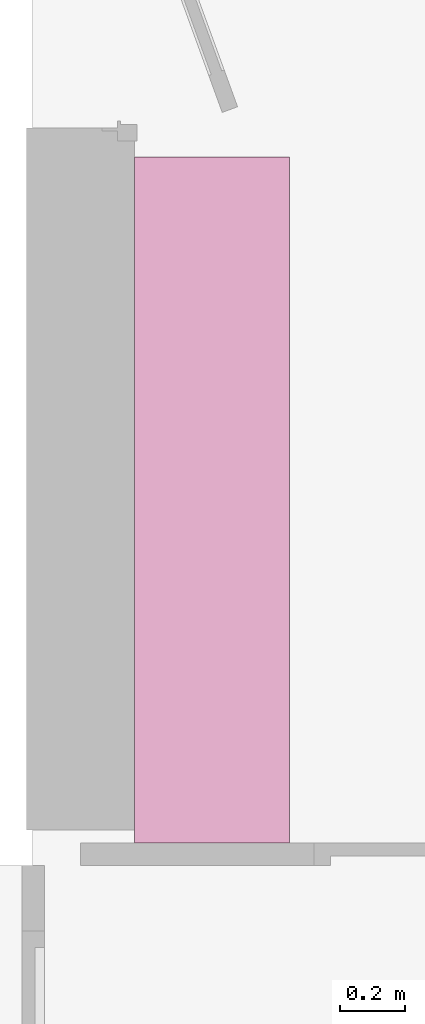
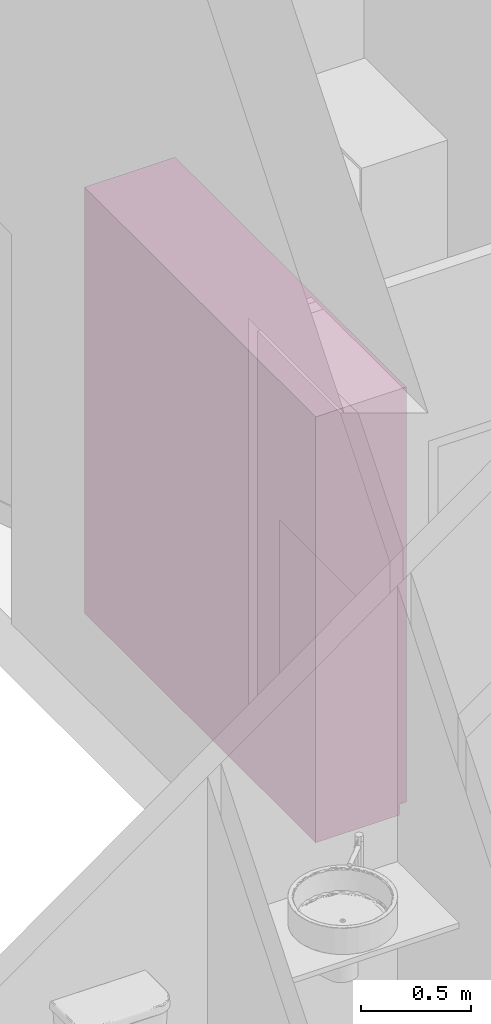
# One storey, part 33 of 40: 1 furnishing.
"""IFC2X3 building model written with IfcOpenShell, lengths in metres."""

from ifc_helpers import new_model, entity, si_unit, converted_unit, derived_unit, direction, frame, origin, place, context, subcontext, project, spatial, faceted_brep, source, transform, mapped, material, material_list, type_object, type_shapes, element, save


model = new_model("IFC2X3")

# Units and contexts
model_context = context("Model", 3, precision=1e-05, world=origin(), true_north=direction((6.12303176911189e-17, 1.0)))
body_context = subcontext(model_context, "Body", "Model", "MODEL_VIEW")
ifc_project = project(units=[si_unit("LENGTHUNIT", "METRE"), si_unit("AREAUNIT", "SQUARE_METRE"), si_unit("VOLUMEUNIT", "CUBIC_METRE"), converted_unit("PLANEANGLEUNIT", "DEGREE", entity("IfcRatioMeasure", 0.0174532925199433), si_unit("PLANEANGLEUNIT", "RADIAN"), dimensions=[0, 0, 0, 0, 0, 0, 0]), si_unit("MASSUNIT", "GRAM", prefix="KILO"), derived_unit("MASSDENSITYUNIT", [(si_unit("MASSUNIT", "GRAM", prefix="KILO"), 1), (si_unit("LENGTHUNIT", "METRE"), -3)]), si_unit("TIMEUNIT", "SECOND"), si_unit("FREQUENCYUNIT", "HERTZ"), si_unit("THERMODYNAMICTEMPERATUREUNIT", "DEGREE_CELSIUS"), derived_unit("THERMALTRANSMITTANCEUNIT", [(si_unit("MASSUNIT", "GRAM", prefix="KILO"), 1), (si_unit("THERMODYNAMICTEMPERATUREUNIT", "KELVIN"), -1), (si_unit("TIMEUNIT", "SECOND"), -3)]), derived_unit("VOLUMETRICFLOWRATEUNIT", [(si_unit("LENGTHUNIT", "METRE"), 3), (si_unit("TIMEUNIT", "SECOND"), -1)]), si_unit("ELECTRICCURRENTUNIT", "AMPERE"), si_unit("ELECTRICVOLTAGEUNIT", "VOLT"), si_unit("POWERUNIT", "WATT"), si_unit("FORCEUNIT", "NEWTON", prefix="KILO"), si_unit("ILLUMINANCEUNIT", "LUX"), si_unit("LUMINOUSFLUXUNIT", "LUMEN"), si_unit("LUMINOUSINTENSITYUNIT", "CANDELA"), derived_unit("USERDEFINED", [(si_unit("MASSUNIT", "GRAM", prefix="KILO"), -1), (si_unit("LENGTHUNIT", "METRE"), -2), (si_unit("TIMEUNIT", "SECOND"), 3), (si_unit("LUMINOUSFLUXUNIT", "LUMEN"), 1)]), derived_unit("LINEARVELOCITYUNIT", [(si_unit("LENGTHUNIT", "METRE"), 1), (si_unit("TIMEUNIT", "SECOND"), -1)]), si_unit("PRESSUREUNIT", "PASCAL"), derived_unit("USERDEFINED", [(si_unit("LENGTHUNIT", "METRE"), -2), (si_unit("MASSUNIT", "GRAM", prefix="KILO"), 1), (si_unit("TIMEUNIT", "SECOND"), -2)])], contexts=[model_context])

# Site, building, storey, space
site_placement = place(None, origin())
site = spatial("IfcSite", under=ifc_project, at=site_placement, Name="Surface", CompositionType="ELEMENT")
building_placement = place(site_placement, origin())
building = spatial("IfcBuilding", under=site, at=building_placement, CompositionType="ELEMENT")
storey_placement = place(building_placement, origin())
storey = spatial("IfcBuildingStorey", under=building, at=storey_placement, Name="RDC", CompositionType="ELEMENT", Elevation=-1.0941605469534e-13)
space_placement = place(storey_placement, origin())
space = spatial("IfcSpace", under=storey, at=space_placement, Name="12", CompositionType="ELEMENT", InteriorOrExteriorSpace="INTERNAL")

# Furnishing
ifc_material_1 = material(Name="Verre trempé - Blanc")
ifc_material_2 = material(Name="Métal - Alu brossé")
ifc_material_3 = material(Name="Aggloméré - Blanc brillant")
ifc_material_list_1 = material_list([ifc_material_1, ifc_material_2, ifc_material_3])
ifc_material_list_2 = material_list([ifc_material_1, ifc_material_2, ifc_material_3])
furniture_type = type_object("IfcFurnitureType", Name="210 x 44 x 236 cm - Blanc brillant 2", material=ifc_material_list_2)
shared_shape = source(origin(), body_context, "Body", "Brep", [
    faceted_brep([(0.00199999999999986, -0.473530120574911, 0.828666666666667), (1.043, -0.473530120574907, 0.828666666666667), (1.043, -0.473530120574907, 1.59133333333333), (0.00199999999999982, -0.473530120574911, 1.59133333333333), (1.043, -0.461530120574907, 0.828666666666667), (0.00199999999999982, -0.461530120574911, 0.828666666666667), (1.043, -0.461530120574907, 1.59133333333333), (0.00199999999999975, -0.461530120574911, 1.59133333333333)], [[[0, 1, 2, 3]], [[4, 1, 0, 5]], [[6, 2, 1, 4]], [[7, 3, 2, 6]], [[5, 0, 3, 7]], [[5, 7, 6, 4]]]),
    faceted_brep([(1.044, -0.461530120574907, 2.353), (1.044, -0.461530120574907, 1.59533333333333), (0.00199999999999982, -0.461530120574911, 1.59533333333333), (0.00199999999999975, -0.461530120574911, 2.353), (0.0019999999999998, -0.473530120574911, 2.353), (1.044, -0.473530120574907, 2.353), (0.00199999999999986, -0.473530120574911, 1.59533333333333), (1.044, -0.473530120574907, 1.59533333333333)], [[[0, 1, 2, 3]], [[3, 4, 5, 0]], [[2, 6, 4, 3]], [[1, 7, 6, 2]], [[0, 5, 7, 1]], [[5, 4, 6, 7]]]),
    faceted_brep([(0.00199999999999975, -0.461530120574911, 0.824666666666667), (0.0019999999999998, -0.473530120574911, 0.824666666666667), (1.043, -0.473530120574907, 0.824666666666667), (1.043, -0.461530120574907, 0.824666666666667), (0.00199999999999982, -0.461530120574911, 0.0669999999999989), (0.00199999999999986, -0.473530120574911, 0.0669999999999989), (1.043, -0.461530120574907, 0.0669999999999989), (1.043, -0.473530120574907, 0.0669999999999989)], [[[0, 1, 2, 3]], [[4, 5, 1, 0]], [[6, 7, 5, 4]], [[3, 2, 7, 6]], [[3, 6, 4, 0]], [[2, 1, 5, 7]]]),
    faceted_brep([(1.046, -0.474530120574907, 2.356), (1.046, -0.474530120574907, 0.0639999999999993), (1.046, -0.461530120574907, 0.0639999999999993), (1.046, -0.461530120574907, 2.356), (1.043, -0.461530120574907, 2.353), (1.043, -0.461530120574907, 1.59533333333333), (1.043, -0.474530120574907, 1.59533333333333), (1.043, -0.474530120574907, 2.353), (1.032, -0.459530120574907, 2.342), (1.032, -0.459530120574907, 1.59533333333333), (1.032, -0.461530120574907, 1.59533333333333), (1.032, -0.461530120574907, 2.342), (1.047, -0.461530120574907, 2.357), (1.047, -0.461530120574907, 0.0629999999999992), (1.047, -0.459530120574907, 0.0629999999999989), (1.047, -0.459530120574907, 2.357), (-0.00100000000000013, -0.474530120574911, 0.063999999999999), (-0.00100000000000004, -0.461530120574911, 0.063999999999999), (1.043, -0.461530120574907, 0.0669999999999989), (0.00199999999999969, -0.461530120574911, 0.0669999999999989), (0.00199999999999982, -0.474530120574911, 0.0669999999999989), (1.043, -0.474530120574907, 0.066999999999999), (1.032, -0.459530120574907, 0.0779999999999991), (0.0129999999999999, -0.459530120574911, 0.0779999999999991), (0.013, -0.461530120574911, 0.0779999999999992), (1.032, -0.461530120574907, 0.0779999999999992), (-0.00200000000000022, -0.461530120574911, 0.0629999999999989), (-0.00200000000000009, -0.459530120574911, 0.062999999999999), (-0.000999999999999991, -0.474530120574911, 2.356), (-0.00100000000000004, -0.461530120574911, 2.356), (0.00199999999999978, -0.461530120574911, 0.824666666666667), (0.00199999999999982, -0.474530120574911, 0.824666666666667), (0.0129999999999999, -0.459530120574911, 0.824666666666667), (0.0129999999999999, -0.461530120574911, 0.824666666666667), (-0.00200000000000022, -0.461530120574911, 2.357), (-0.00200000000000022, -0.459530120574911, 2.357), (1.043, -0.474530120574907, 0.824666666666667), (0.00199999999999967, -0.474530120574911, 1.59133333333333), (1.043, -0.474530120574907, 1.59133333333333), (1.043, -0.474530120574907, 0.828666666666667), (0.00199999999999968, -0.474530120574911, 0.828666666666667), (0.00199999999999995, -0.474530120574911, 2.353), (0.00199999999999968, -0.474530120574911, 1.59533333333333), (0.00199999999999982, -0.461530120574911, 2.353), (0.0019999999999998, -0.461530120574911, 1.59533333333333), (0.0129999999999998, -0.461530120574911, 1.59533333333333), (0.0129999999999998, -0.461530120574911, 2.342), (0.0129999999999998, -0.459530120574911, 2.342), (1.032, -0.459530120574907, 0.824666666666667), (0.0129999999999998, -0.459530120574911, 1.59533333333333), (1.032, -0.459530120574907, 1.59133333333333), (0.0129999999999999, -0.459530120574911, 1.59133333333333), (0.0129999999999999, -0.459530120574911, 0.828666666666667), (1.032, -0.459530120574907, 0.828666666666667), (0.0019999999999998, -0.461530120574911, 1.59133333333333), (0.0129999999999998, -0.461530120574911, 1.59133333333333), (1.032, -0.461530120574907, 1.59133333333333), (1.043, -0.461530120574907, 1.59133333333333), (1.043, -0.461530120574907, 0.828666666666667), (1.032, -0.461530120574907, 0.828666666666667), (0.0129999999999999, -0.461530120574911, 0.828666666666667), (0.00199999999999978, -0.461530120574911, 0.828666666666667), (1.032, -0.461530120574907, 0.824666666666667), (1.043, -0.461530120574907, 0.824666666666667)], [[[0, 1, 2, 3]], [[4, 5, 6, 7]], [[8, 9, 10, 11]], [[12, 13, 14, 15]], [[1, 16, 17, 2]], [[18, 19, 20, 21]], [[22, 23, 24, 25]], [[13, 26, 27, 14]], [[16, 28, 29, 17]], [[19, 30, 31, 20]], [[23, 32, 33, 24]], [[26, 34, 35, 27]], [[2, 17, 29, 3], [12, 34, 26, 13]], [[3, 29, 28, 0]], [[20, 31, 36, 21], [0, 28, 16, 1], [37, 38, 39, 40], [41, 7, 6, 42]], [[7, 41, 43, 4]], [[43, 44, 45, 46, 11, 10, 5, 4]], [[11, 46, 47, 8]], [[14, 27, 35, 15], [22, 48, 32, 23], [8, 47, 49, 9], [50, 51, 52, 53]], [[15, 35, 34, 12]], [[6, 5, 10, 9, 49, 45, 44, 42]], [[37, 54, 55, 51, 50, 56, 57, 38]], [[39, 58, 59, 53, 52, 60, 61, 40]], [[31, 30, 33, 32, 48, 62, 63, 36]], [[55, 54, 61, 60]], [[59, 58, 57, 56]], [[18, 63, 62, 25, 24, 33, 30, 19]], [[60, 52, 51, 55]], [[46, 45, 49, 47]], [[40, 61, 54, 37]], [[41, 42, 44, 43]], [[56, 50, 53, 59]], [[25, 62, 48, 22]], [[38, 57, 58, 39]], [[21, 36, 63, 18]]], outer=[[True], [True], [True], [True], [True], [True], [True], [True], [True], [True], [True], [True], [False, True], [True], [False, True, False, False], [True], [True], [True], [True, False, False, False], [True], [True], [True], [True], [True], [True], [True], [True], [True], [True], [True], [True], [True], [True], [True], [True]]),
    faceted_brep([(-0.00199999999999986, -0.45753012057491, 0.828666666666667), (-0.0019999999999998, -0.45753012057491, 1.59133333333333), (-1.043, -0.457530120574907, 1.59133333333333), (-1.043, -0.457530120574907, 0.828666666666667), (-1.043, -0.445530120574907, 0.828666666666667), (-0.00199999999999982, -0.44553012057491, 0.828666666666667), (-1.043, -0.445530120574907, 1.59133333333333), (-0.00199999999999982, -0.44553012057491, 1.59133333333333)], [[[0, 1, 2, 3]], [[4, 5, 0, 3]], [[6, 4, 3, 2]], [[7, 6, 2, 1]], [[5, 7, 1, 0]], [[5, 4, 6, 7]]]),
    faceted_brep([(-1.044, -0.445530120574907, 2.353), (-0.00199999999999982, -0.44553012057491, 2.353), (-0.00199999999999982, -0.44553012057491, 1.59533333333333), (-1.044, -0.445530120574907, 1.59533333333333), (-1.044, -0.457530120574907, 2.353), (-0.00199999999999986, -0.45753012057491, 2.353), (-0.00199999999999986, -0.45753012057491, 1.59533333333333), (-1.044, -0.457530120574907, 1.59533333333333)], [[[0, 1, 2, 3]], [[1, 0, 4, 5]], [[2, 1, 5, 6]], [[3, 2, 6, 7]], [[0, 3, 7, 4]], [[4, 7, 6, 5]]]),
    faceted_brep([(-0.00199999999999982, -0.44553012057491, 0.824666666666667), (-1.043, -0.445530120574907, 0.824666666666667), (-1.043, -0.457530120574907, 0.824666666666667), (-0.00199999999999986, -0.45753012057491, 0.824666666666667), (-0.00199999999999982, -0.44553012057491, 0.0669999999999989), (-0.00199999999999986, -0.45753012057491, 0.0669999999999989), (-1.043, -0.445530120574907, 0.0669999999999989), (-1.043, -0.457530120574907, 0.0669999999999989)], [[[0, 1, 2, 3]], [[4, 0, 3, 5]], [[6, 4, 5, 7]], [[1, 6, 7, 2]], [[1, 0, 4, 6]], [[2, 7, 5, 3]]]),
    faceted_brep([(-1.046, -0.458530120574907, 2.356), (-1.046, -0.445530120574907, 2.356), (-1.046, -0.445530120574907, 0.0639999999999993), (-1.046, -0.458530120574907, 0.0639999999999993), (-1.043, -0.445530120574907, 2.353), (-1.043, -0.458530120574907, 2.353), (-1.043, -0.458530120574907, 1.59533333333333), (-1.043, -0.445530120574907, 1.59533333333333), (-1.032, -0.443530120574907, 2.342), (-1.032, -0.445530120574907, 2.342), (-1.032, -0.445530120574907, 1.59533333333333), (-1.032, -0.443530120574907, 1.59533333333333), (-1.047, -0.445530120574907, 2.357), (-1.047, -0.443530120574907, 2.357), (-1.047, -0.443530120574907, 0.0629999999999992), (-1.047, -0.445530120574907, 0.0629999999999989), (0.00100000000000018, -0.44553012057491, 0.063999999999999), (0.00100000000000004, -0.45853012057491, 0.063999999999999), (-1.043, -0.445530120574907, 0.0669999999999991), (-1.043, -0.458530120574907, 0.0669999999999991), (-0.00199999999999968, -0.45853012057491, 0.0669999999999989), (-0.00199999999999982, -0.44553012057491, 0.0669999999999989), (-1.032, -0.443530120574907, 0.0779999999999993), (-1.032, -0.445530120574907, 0.0779999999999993), (-0.0129999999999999, -0.44553012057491, 0.0779999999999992), (-0.013, -0.44353012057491, 0.0779999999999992), (0.00200000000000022, -0.44353012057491, 0.062999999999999), (0.00200000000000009, -0.44553012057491, 0.062999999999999), (0.00100000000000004, -0.44553012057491, 2.356), (0.000999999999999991, -0.45853012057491, 2.356), (-0.00199999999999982, -0.45853012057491, 0.824666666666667), (-0.00199999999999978, -0.44553012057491, 0.824666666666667), (-0.0129999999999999, -0.44553012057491, 0.824666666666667), (-0.0129999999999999, -0.44353012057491, 0.824666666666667), (0.00200000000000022, -0.44353012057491, 2.357), (0.00200000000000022, -0.44553012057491, 2.357), (-1.043, -0.458530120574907, 0.824666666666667), (-0.00199999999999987, -0.45853012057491, 2.353), (-0.00199999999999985, -0.45853012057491, 1.59533333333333), (-0.00199999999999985, -0.45853012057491, 1.59133333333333), (-0.00199999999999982, -0.45853012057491, 0.828666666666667), (-1.043, -0.458530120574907, 0.828666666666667), (-1.043, -0.458530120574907, 1.59133333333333), (-0.00199999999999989, -0.44553012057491, 2.353), (-1.032, -0.445530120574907, 0.824666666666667), (-1.043, -0.445530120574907, 0.824666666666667), (-0.0130000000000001, -0.44353012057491, 2.342), (-0.0129999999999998, -0.44553012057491, 2.342), (-0.0129999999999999, -0.44353012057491, 1.59533333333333), (-1.032, -0.443530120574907, 1.59133333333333), (-1.032, -0.443530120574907, 0.828666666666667), (-0.0129999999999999, -0.44353012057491, 0.828666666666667), (-0.0129999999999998, -0.44353012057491, 1.59133333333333), (-1.032, -0.443530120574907, 0.824666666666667), (-0.0019999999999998, -0.44553012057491, 1.59533333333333), (-0.0129999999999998, -0.44553012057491, 1.59533333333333), (-1.043, -0.445530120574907, 1.59133333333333), (-1.032, -0.445530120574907, 1.59133333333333), (-0.0129999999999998, -0.44553012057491, 1.59133333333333), (-0.0019999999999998, -0.44553012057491, 1.59133333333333), (-0.00199999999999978, -0.44553012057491, 0.828666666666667), (-0.0129999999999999, -0.44553012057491, 0.828666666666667), (-1.032, -0.445530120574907, 0.828666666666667), (-1.043, -0.445530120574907, 0.828666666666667)], [[[0, 1, 2, 3]], [[4, 5, 6, 7]], [[8, 9, 10, 11]], [[12, 13, 14, 15]], [[3, 2, 16, 17]], [[18, 19, 20, 21]], [[22, 23, 24, 25]], [[15, 14, 26, 27]], [[17, 16, 28, 29]], [[21, 20, 30, 31]], [[25, 24, 32, 33]], [[27, 26, 34, 35]], [[2, 1, 28, 16], [12, 15, 27, 35]], [[1, 0, 29, 28]], [[20, 19, 36, 30], [37, 38, 6, 5], [39, 40, 41, 42], [0, 3, 17, 29]], [[5, 4, 43, 37]], [[18, 21, 31, 32, 24, 23, 44, 45]], [[9, 8, 46, 47]], [[14, 13, 34, 26], [8, 11, 48, 46], [49, 50, 51, 52], [22, 25, 33, 53]], [[13, 12, 35, 34]], [[6, 38, 54, 55, 48, 11, 10, 7]], [[39, 42, 56, 57, 49, 52, 58, 59]], [[41, 40, 60, 61, 51, 50, 62, 63]], [[30, 36, 45, 44, 53, 33, 32, 31]], [[58, 61, 60, 59]], [[62, 57, 56, 63]], [[43, 4, 7, 10, 9, 47, 55, 54]], [[61, 58, 52, 51]], [[47, 46, 48, 55]], [[40, 39, 59, 60]], [[37, 43, 54, 38]], [[57, 62, 50, 49]], [[23, 22, 53, 44]], [[42, 41, 63, 56]], [[19, 18, 45, 36]]], outer=[[True], [True], [True], [True], [True], [True], [True], [True], [True], [True], [True], [True], [False, True], [True], [False, False, False, True], [True], [True], [True], [True, False, False, False], [True], [True], [True], [True], [True], [True], [True], [True], [True], [True], [True], [True], [True], [True], [True], [True]]),
    faceted_brep([(1.031, -0.443000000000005, 0.0789999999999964), (1.031, -0.440000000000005, 0.0789999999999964), (-1.031, -0.440000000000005, 0.0789999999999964), (-1.031, -0.443000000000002, 0.0789999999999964), (1.047, -0.475000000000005, 0.0629999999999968), (1.047, -0.443000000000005, 0.0629999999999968), (-1.047, -0.443000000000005, 0.0629999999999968), (-1.047, -0.475000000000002, 0.0629999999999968), (1.05, -0.440000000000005, 0.0599999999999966), (1.05, -0.475000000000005, 0.0599999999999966), (-1.05, -0.475000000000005, 0.0599999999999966), (-1.05, -0.440000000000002, 0.0599999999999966), (-1.031, -0.440000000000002, 2.341), (-1.031, -0.443000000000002, 2.341), (-1.047, -0.443000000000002, 2.357), (-1.047, -0.475000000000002, 2.357), (-1.05, -0.475000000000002, 2.36), (-1.05, -0.440000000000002, 2.36), (1.031, -0.440000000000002, 2.341), (1.031, -0.443000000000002, 2.341), (1.047, -0.443000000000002, 2.357), (1.047, -0.475000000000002, 2.357), (1.05, -0.475000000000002, 2.36), (1.05, -0.440000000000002, 2.36)], [[[0, 1, 2, 3]], [[4, 5, 6, 7]], [[8, 9, 10, 11]], [[3, 2, 12, 13]], [[7, 6, 14, 15]], [[11, 10, 16, 17]], [[13, 12, 18, 19]], [[15, 14, 20, 21]], [[17, 16, 22, 23]], [[11, 17, 23, 8], [1, 18, 12, 2]], [[19, 18, 1, 0]], [[3, 13, 19, 0], [5, 20, 14, 6]], [[21, 20, 5, 4]], [[7, 15, 21, 4], [9, 22, 16, 10]], [[23, 22, 9, 8]]], outer=[[True], [True], [True], [True], [True], [True], [True], [True], [True], [True, False], [True], [False, True], [True], [False, True], [True]]),
    faceted_brep([(1.031, -0.419999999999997, 0.0599999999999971), (1.031, -0.400999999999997, 0.0599999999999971), (-1.031, -0.400999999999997, 0.0599999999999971), (-1.031, -0.419999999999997, 0.0599999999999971), (1.031, -0.419999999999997, 0.0), (1.031, -0.400999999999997, 0.0), (-1.031, -0.400999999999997, 0.0), (-1.031, -0.419999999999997, 0.0)], [[[0, 1, 2, 3]], [[1, 0, 4, 5]], [[2, 1, 5, 6]], [[3, 2, 6, 7]], [[0, 3, 7, 4]], [[4, 7, 6, 5]]]),
    faceted_brep([(1.031, -0.0200000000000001, 0.0), (1.031, -0.0390000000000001, 0.0), (-1.031, -0.0390000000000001, 0.0), (-1.031, -0.0200000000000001, 0.0), (-1.031, -0.0200000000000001, 0.0599999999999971), (1.031, -0.0200000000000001, 0.0599999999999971), (-1.031, -0.0390000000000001, 0.0599999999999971), (1.031, -0.0390000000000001, 0.0599999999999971)], [[[0, 1, 2, 3]], [[4, 5, 0, 3]], [[6, 4, 3, 2]], [[7, 6, 2, 1]], [[5, 7, 1, 0]], [[5, 4, 6, 7]]]),
    faceted_brep([(1.05, -0.439999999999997, 2.36), (1.05, -0.439999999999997, 2.341), (1.05, 0.0, 2.341), (1.05, 0.0, 2.36), (-1.05, -0.439999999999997, 2.36), (-1.05, 0.0, 2.36), (-1.05, 0.0, 2.341), (-1.05, -0.439999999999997, 2.341)], [[[0, 1, 2, 3]], [[4, 5, 6, 7]], [[1, 0, 4, 7]], [[2, 1, 7, 6]], [[3, 2, 6, 5]], [[0, 3, 5, 4]]]),
    faceted_brep([(1.031, -0.44, 0.0599999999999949), (1.031, -0.44, 0.0789999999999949), (-1.031, -0.44, 0.0789999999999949), (-1.031, -0.44, 0.0599999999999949), (-1.031, 0.0, 2.341), (1.031, 0.0, 2.341), (1.031, 0.0, 0.0), (-1.031, 0.0, 0.0), (1.031, -0.00500000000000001, 0.0599999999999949), (1.031, -0.00500000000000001, 0.0), (1.031, -0.005, 2.341), (1.031, -0.00500000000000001, 0.078999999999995), (-1.031, -0.00500000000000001, 0.0789999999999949), (-1.031, -0.005, 2.341), (-1.031, -0.005, 0.0), (-1.031, -0.005, 0.059999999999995)], [[[0, 1, 2, 3]], [[4, 5, 6, 7]], [[1, 0, 8, 9, 6, 5, 10, 11]], [[2, 1, 11, 12]], [[3, 2, 12, 13, 4, 7, 14, 15]], [[0, 3, 15, 8]], [[5, 4, 13, 10]], [[6, 9, 14, 7]], [[10, 13, 12, 11]], [[14, 9, 8, 15]]]),
    faceted_brep([(1.05, 0.0, 2.341), (1.031, 0.0, 2.341), (1.031, -0.439999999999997, 2.341), (1.05, -0.439999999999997, 2.341), (1.05, 0.0, 0.0), (1.031, 0.0, 0.0), (1.031, -0.439999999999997, 0.0), (1.05, -0.439999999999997, 0.0)], [[[0, 1, 2, 3]], [[1, 0, 4, 5]], [[2, 1, 5, 6]], [[3, 2, 6, 7]], [[0, 3, 7, 4]], [[4, 7, 6, 5]]]),
    faceted_brep([(-1.031, 0.0, 0.0), (-1.031, -0.439999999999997, 0.0), (-1.05, -0.439999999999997, 0.0), (-1.05, 0.0, 0.0), (-1.05, 0.0, 2.341), (-1.031, 0.0, 2.341), (-1.05, -0.439999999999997, 2.341), (-1.031, -0.439999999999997, 2.341)], [[[0, 1, 2, 3]], [[4, 5, 0, 3]], [[6, 4, 3, 2]], [[7, 6, 2, 1]], [[5, 7, 1, 0]], [[5, 4, 6, 7]]]),
])
type_shapes(furniture_type, [shared_shape])
furnishing_placement = place(space_placement, frame((-4.6724888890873, 5.3970106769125, 0.0), z_axis=(0.0, 0.0, 1.0), x_axis=(0.0, 1.0, 0.0)))
element("IfcFurnishingElement", 1, at=furnishing_placement, inside=space, type_object=furniture_type, material=ifc_material_list_1, Name="Armoire à deux portes coulissantes:210 x 44 x 236 cm - Blanc brillant 2", ObjectType="210 x 44 x 236 cm - Blanc brillant 2", context=body_context, shape_type="MappedRepresentation", body=[
    mapped(shared_shape, transform((0.0, 0.0, 0.0), scale=1.0)),
])

save(model, "model.ifc")
